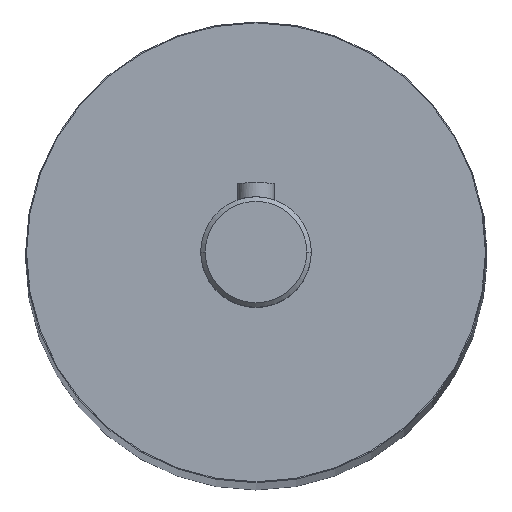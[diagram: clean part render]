
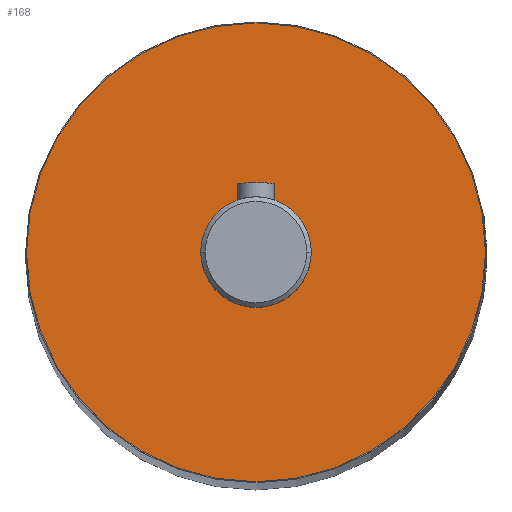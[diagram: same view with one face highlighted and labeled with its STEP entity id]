
A CAD part, top view. The second image highlights one B-rep face of the part: STEP entity #168.
In plain terms, the highlighted planar face has unit normal (0, 0, 1).
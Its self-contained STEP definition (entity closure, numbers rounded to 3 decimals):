
#83 = FACE_BOUND ( 'NONE', #980, .T. ) ;
#100 = CARTESIAN_POINT ( 'NONE',  ( 0., 0., 227.5 ) ) ;
#150 = EDGE_CURVE ( 'NONE', #654, #1549, #430, .T. ) ;
#154 = CIRCLE ( 'NONE', #660, 24.9 ) ;
#165 = AXIS2_PLACEMENT_3D ( 'NONE', #1598, #234, #1449 ) ;
#168 = ADVANCED_FACE ( 'NONE', ( #83, #1645 ), #1687, .T. ) ;
#198 = AXIS2_PLACEMENT_3D ( 'NONE', #934, #776, #1389 ) ;
#224 = DIRECTION ( 'NONE',  ( 1., 0., 0. ) ) ;
#225 = CARTESIAN_POINT ( 'NONE',  ( -6., 0., 227.5 ) ) ;
#234 = DIRECTION ( 'NONE',  ( 0., 0., 1. ) ) ;
#307 = CARTESIAN_POINT ( 'NONE',  ( 6., 0., 227.5 ) ) ;
#355 = CIRCLE ( 'NONE', #664, 24.9 ) ;
#369 = CIRCLE ( 'NONE', #1686, 6. ) ;
#426 = CARTESIAN_POINT ( 'NONE',  ( -24.9, 0., 227.5 ) ) ;
#430 = CIRCLE ( 'NONE', #165, 6. ) ;
#534 = EDGE_CURVE ( 'NONE', #1549, #654, #369, .T. ) ;
#542 = ORIENTED_EDGE ( 'NONE', *, *, #862, .T. ) ;
#548 = DIRECTION ( 'NONE',  ( 0., 0., 1. ) ) ;
#628 = EDGE_LOOP ( 'NONE', ( #1068, #542 ) ) ;
#654 = VERTEX_POINT ( 'NONE', #225 ) ;
#660 = AXIS2_PLACEMENT_3D ( 'NONE', #1913, #1497, #1782 ) ;
#664 = AXIS2_PLACEMENT_3D ( 'NONE', #685, #993, #224 ) ;
#685 = CARTESIAN_POINT ( 'NONE',  ( 0., 0., 227.5 ) ) ;
#776 = DIRECTION ( 'NONE',  ( 0., 0., 1. ) ) ;
#807 = ORIENTED_EDGE ( 'NONE', *, *, #150, .F. ) ;
#842 = CARTESIAN_POINT ( 'NONE',  ( 24.9, 0., 227.5 ) ) ;
#862 = EDGE_CURVE ( 'NONE', #1101, #1193, #154, .T. ) ;
#934 = CARTESIAN_POINT ( 'NONE',  ( 0., 0., 227.5 ) ) ;
#980 = EDGE_LOOP ( 'NONE', ( #807, #1259 ) ) ;
#993 = DIRECTION ( 'NONE',  ( 0., 0., 1. ) ) ;
#1068 = ORIENTED_EDGE ( 'NONE', *, *, #1085, .T. ) ;
#1085 = EDGE_CURVE ( 'NONE', #1193, #1101, #355, .T. ) ;
#1101 = VERTEX_POINT ( 'NONE', #842 ) ;
#1157 = DIRECTION ( 'NONE',  ( 1., 0., 0. ) ) ;
#1193 = VERTEX_POINT ( 'NONE', #426 ) ;
#1259 = ORIENTED_EDGE ( 'NONE', *, *, #534, .F. ) ;
#1389 = DIRECTION ( 'NONE',  ( 1., 0., 0. ) ) ;
#1449 = DIRECTION ( 'NONE',  ( 1., 0., 0. ) ) ;
#1497 = DIRECTION ( 'NONE',  ( 0., 0., 1. ) ) ;
#1549 = VERTEX_POINT ( 'NONE', #307 ) ;
#1598 = CARTESIAN_POINT ( 'NONE',  ( 0., 0., 227.5 ) ) ;
#1645 = FACE_OUTER_BOUND ( 'NONE', #628, .T. ) ;
#1686 = AXIS2_PLACEMENT_3D ( 'NONE', #100, #548, #1157 ) ;
#1687 = PLANE ( 'NONE',  #198 ) ;
#1782 = DIRECTION ( 'NONE',  ( 1., 0., 0. ) ) ;
#1913 = CARTESIAN_POINT ( 'NONE',  ( 0., 0., 227.5 ) ) ;
